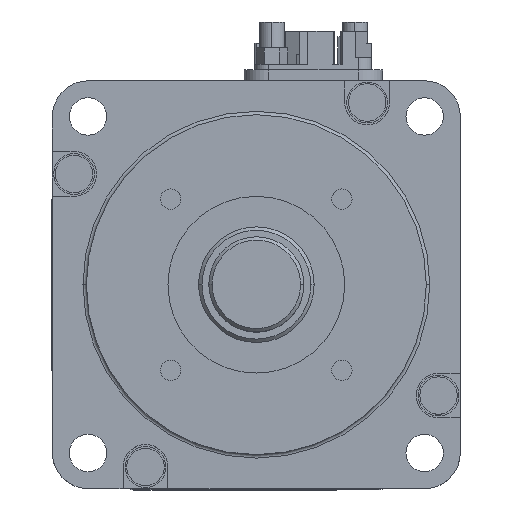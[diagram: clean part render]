
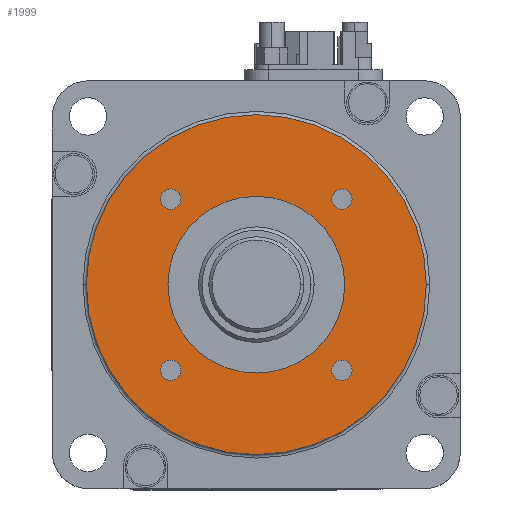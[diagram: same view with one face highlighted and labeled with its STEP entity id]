
A CAD part, top view. The second image highlights one B-rep face of the part: STEP entity #1999.
In plain terms, the highlighted planar face has unit normal (0, 0, 1).
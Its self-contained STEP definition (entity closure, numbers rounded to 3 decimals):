
#66 = EDGE_CURVE ( 'NONE', #16026, #19422, #13249, .T. ) ;
#436 = VERTEX_POINT ( 'NONE', #22267 ) ;
#639 = DIRECTION ( 'NONE',  ( 0., 0., 1. ) ) ;
#795 = ORIENTED_EDGE ( 'NONE', *, *, #7353, .F. ) ;
#827 = PLANE ( 'NONE',  #9165 ) ;
#1441 = DIRECTION ( 'NONE',  ( 0., 0., 1. ) ) ;
#1545 = CIRCLE ( 'NONE', #6092, 1.5 ) ;
#1602 = FACE_BOUND ( 'NONE', #12016, .T. ) ;
#1681 = VERTEX_POINT ( 'NONE', #7334 ) ;
#1813 = DIRECTION ( 'NONE',  ( 0., 0., 1. ) ) ;
#1844 = DIRECTION ( 'NONE',  ( 0., 0., 1. ) ) ;
#1999 = ADVANCED_FACE ( 'NONE', ( #19542, #1602, #18978, #14562, #22451, #14018 ), #827, .T. ) ;
#2096 = EDGE_CURVE ( 'NONE', #15470, #22368, #18650, .T. ) ;
#2215 = DIRECTION ( 'NONE',  ( 0., 0., 1. ) ) ;
#2416 = CARTESIAN_POINT ( 'NONE',  ( -12.587, -12.587, 3. ) ) ;
#2932 = ORIENTED_EDGE ( 'NONE', *, *, #5917, .F. ) ;
#3219 = CIRCLE ( 'NONE', #13799, 1.5 ) ;
#3439 = EDGE_CURVE ( 'NONE', #11715, #1681, #11564, .T. ) ;
#3614 = CARTESIAN_POINT ( 'NONE',  ( -12.587, -12.587, 3. ) ) ;
#3651 = CARTESIAN_POINT ( 'NONE',  ( 0., 0., 3. ) ) ;
#4088 = CARTESIAN_POINT ( 'NONE',  ( -14.087, -12.587, 3. ) ) ;
#4512 = DIRECTION ( 'NONE',  ( 0., 0., 1. ) ) ;
#4993 = ORIENTED_EDGE ( 'NONE', *, *, #17171, .T. ) ;
#5407 = DIRECTION ( 'NONE',  ( 0., 0., 1. ) ) ;
#5614 = CARTESIAN_POINT ( 'NONE',  ( -11.087, 12.587, 3. ) ) ;
#5818 = CIRCLE ( 'NONE', #6008, 1.5 ) ;
#5836 = CIRCLE ( 'NONE', #5847, 1.5 ) ;
#5847 = AXIS2_PLACEMENT_3D ( 'NONE', #9480, #1844, #13037 ) ;
#5852 = DIRECTION ( 'NONE',  ( 1., 0., 0. ) ) ;
#5917 = EDGE_CURVE ( 'NONE', #19422, #16026, #1545, .T. ) ;
#6008 = AXIS2_PLACEMENT_3D ( 'NONE', #6079, #2215, #15427 ) ;
#6079 = CARTESIAN_POINT ( 'NONE',  ( -12.587, 12.587, 3. ) ) ;
#6092 = AXIS2_PLACEMENT_3D ( 'NONE', #13310, #11448, #7830 ) ;
#6226 = DIRECTION ( 'NONE',  ( 0., 0., 1. ) ) ;
#6379 = DIRECTION ( 'NONE',  ( 1., 0., 0. ) ) ;
#7263 = CARTESIAN_POINT ( 'NONE',  ( -13., 0., 3. ) ) ;
#7334 = CARTESIAN_POINT ( 'NONE',  ( 13., 0., 3. ) ) ;
#7353 = EDGE_CURVE ( 'NONE', #436, #21203, #21469, .T. ) ;
#7418 = DIRECTION ( 'NONE',  ( 0., 0., 1. ) ) ;
#7451 = EDGE_CURVE ( 'NONE', #11165, #8886, #5836, .T. ) ;
#7528 = EDGE_LOOP ( 'NONE', ( #11201, #13025 ) ) ;
#7734 = CARTESIAN_POINT ( 'NONE',  ( -25., 0., 3. ) ) ;
#7830 = DIRECTION ( 'NONE',  ( 1., 0., 0. ) ) ;
#8164 = CARTESIAN_POINT ( 'NONE',  ( 0., 0., 3. ) ) ;
#8886 = VERTEX_POINT ( 'NONE', #18508 ) ;
#8994 = DIRECTION ( 'NONE',  ( 0., 0., 1. ) ) ;
#9072 = CARTESIAN_POINT ( 'NONE',  ( 14.087, -12.587, 3. ) ) ;
#9165 = AXIS2_PLACEMENT_3D ( 'NONE', #15551, #4512, #6379 ) ;
#9171 = DIRECTION ( 'NONE',  ( 0., 0., 1. ) ) ;
#9480 = CARTESIAN_POINT ( 'NONE',  ( 12.587, 12.587, 3. ) ) ;
#9506 = CIRCLE ( 'NONE', #15280, 25. ) ;
#9705 = AXIS2_PLACEMENT_3D ( 'NONE', #20209, #9171, #12634 ) ;
#10011 = DIRECTION ( 'NONE',  ( 1., 0., 0. ) ) ;
#10220 = ORIENTED_EDGE ( 'NONE', *, *, #66, .F. ) ;
#10244 = EDGE_LOOP ( 'NONE', ( #10220, #2932 ) ) ;
#10874 = DIRECTION ( 'NONE',  ( 1., 0., 0. ) ) ;
#10889 = ORIENTED_EDGE ( 'NONE', *, *, #3439, .F. ) ;
#11165 = VERTEX_POINT ( 'NONE', #16151 ) ;
#11201 = ORIENTED_EDGE ( 'NONE', *, *, #2096, .F. ) ;
#11433 = EDGE_LOOP ( 'NONE', ( #4993, #11903 ) ) ;
#11448 = DIRECTION ( 'NONE',  ( 0., 0., 1. ) ) ;
#11564 = CIRCLE ( 'NONE', #17028, 13. ) ;
#11715 = VERTEX_POINT ( 'NONE', #7263 ) ;
#11903 = ORIENTED_EDGE ( 'NONE', *, *, #13784, .T. ) ;
#11983 = CARTESIAN_POINT ( 'NONE',  ( -14.087, 12.587, 3. ) ) ;
#12016 = EDGE_LOOP ( 'NONE', ( #795, #16838 ) ) ;
#12106 = AXIS2_PLACEMENT_3D ( 'NONE', #2416, #639, #22560 ) ;
#12634 = DIRECTION ( 'NONE',  ( 1., 0., 0. ) ) ;
#13025 = ORIENTED_EDGE ( 'NONE', *, *, #13607, .F. ) ;
#13037 = DIRECTION ( 'NONE',  ( 1., 0., 0. ) ) ;
#13249 = CIRCLE ( 'NONE', #9705, 1.5 ) ;
#13310 = CARTESIAN_POINT ( 'NONE',  ( 12.587, -12.587, 3. ) ) ;
#13598 = EDGE_LOOP ( 'NONE', ( #21878, #10889 ) ) ;
#13607 = EDGE_CURVE ( 'NONE', #22368, #15470, #5818, .T. ) ;
#13722 = AXIS2_PLACEMENT_3D ( 'NONE', #3614, #1441, #20030 ) ;
#13748 = AXIS2_PLACEMENT_3D ( 'NONE', #14657, #7418, #18412 ) ;
#13784 = EDGE_CURVE ( 'NONE', #21144, #22244, #9506, .T. ) ;
#13799 = AXIS2_PLACEMENT_3D ( 'NONE', #20118, #8994, #10874 ) ;
#14018 = FACE_OUTER_BOUND ( 'NONE', #11433, .T. ) ;
#14562 = FACE_BOUND ( 'NONE', #20056, .T. ) ;
#14657 = CARTESIAN_POINT ( 'NONE',  ( 0., 0., 3. ) ) ;
#14772 = CARTESIAN_POINT ( 'NONE',  ( 0., 0., 3. ) ) ;
#14838 = DIRECTION ( 'NONE',  ( 1., 0., 0. ) ) ;
#15225 = CARTESIAN_POINT ( 'NONE',  ( 25., 0., 3. ) ) ;
#15260 = CIRCLE ( 'NONE', #16574, 25. ) ;
#15280 = AXIS2_PLACEMENT_3D ( 'NONE', #8164, #21101, #10011 ) ;
#15427 = DIRECTION ( 'NONE',  ( 1., 0., 0. ) ) ;
#15470 = VERTEX_POINT ( 'NONE', #5614 ) ;
#15551 = CARTESIAN_POINT ( 'NONE',  ( 0., 0., 3. ) ) ;
#16003 = EDGE_CURVE ( 'NONE', #8886, #11165, #3219, .T. ) ;
#16026 = VERTEX_POINT ( 'NONE', #9072 ) ;
#16151 = CARTESIAN_POINT ( 'NONE',  ( 11.087, 12.587, 3. ) ) ;
#16574 = AXIS2_PLACEMENT_3D ( 'NONE', #3651, #5407, #14838 ) ;
#16799 = ORIENTED_EDGE ( 'NONE', *, *, #7451, .F. ) ;
#16838 = ORIENTED_EDGE ( 'NONE', *, *, #18012, .F. ) ;
#16952 = CARTESIAN_POINT ( 'NONE',  ( -12.587, 12.587, 3. ) ) ;
#17028 = AXIS2_PLACEMENT_3D ( 'NONE', #14772, #1813, #5852 ) ;
#17090 = ORIENTED_EDGE ( 'NONE', *, *, #16003, .F. ) ;
#17171 = EDGE_CURVE ( 'NONE', #22244, #21144, #15260, .T. ) ;
#17799 = CIRCLE ( 'NONE', #12106, 1.5 ) ;
#18012 = EDGE_CURVE ( 'NONE', #21203, #436, #17799, .T. ) ;
#18412 = DIRECTION ( 'NONE',  ( 1., 0., 0. ) ) ;
#18508 = CARTESIAN_POINT ( 'NONE',  ( 14.087, 12.587, 3. ) ) ;
#18650 = CIRCLE ( 'NONE', #20368, 1.5 ) ;
#18756 = DIRECTION ( 'NONE',  ( 1., 0., 0. ) ) ;
#18978 = FACE_BOUND ( 'NONE', #7528, .T. ) ;
#19422 = VERTEX_POINT ( 'NONE', #23836 ) ;
#19542 = FACE_BOUND ( 'NONE', #10244, .T. ) ;
#20030 = DIRECTION ( 'NONE',  ( 1., 0., 0. ) ) ;
#20056 = EDGE_LOOP ( 'NONE', ( #17090, #16799 ) ) ;
#20118 = CARTESIAN_POINT ( 'NONE',  ( 12.587, 12.587, 3. ) ) ;
#20209 = CARTESIAN_POINT ( 'NONE',  ( 12.587, -12.587, 3. ) ) ;
#20368 = AXIS2_PLACEMENT_3D ( 'NONE', #16952, #6226, #18756 ) ;
#21101 = DIRECTION ( 'NONE',  ( 0., 0., 1. ) ) ;
#21144 = VERTEX_POINT ( 'NONE', #15225 ) ;
#21203 = VERTEX_POINT ( 'NONE', #4088 ) ;
#21235 = CIRCLE ( 'NONE', #13748, 13. ) ;
#21469 = CIRCLE ( 'NONE', #13722, 1.5 ) ;
#21878 = ORIENTED_EDGE ( 'NONE', *, *, #23130, .F. ) ;
#22244 = VERTEX_POINT ( 'NONE', #7734 ) ;
#22267 = CARTESIAN_POINT ( 'NONE',  ( -11.087, -12.587, 3. ) ) ;
#22368 = VERTEX_POINT ( 'NONE', #11983 ) ;
#22451 = FACE_BOUND ( 'NONE', #13598, .T. ) ;
#22560 = DIRECTION ( 'NONE',  ( 1., 0., 0. ) ) ;
#23130 = EDGE_CURVE ( 'NONE', #1681, #11715, #21235, .T. ) ;
#23836 = CARTESIAN_POINT ( 'NONE',  ( 11.087, -12.587, 3. ) ) ;
